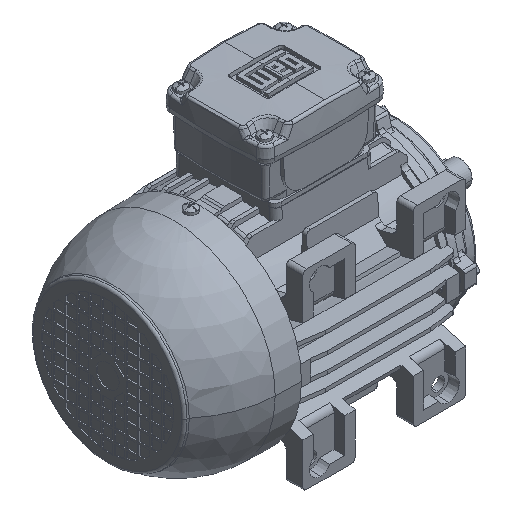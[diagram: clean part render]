
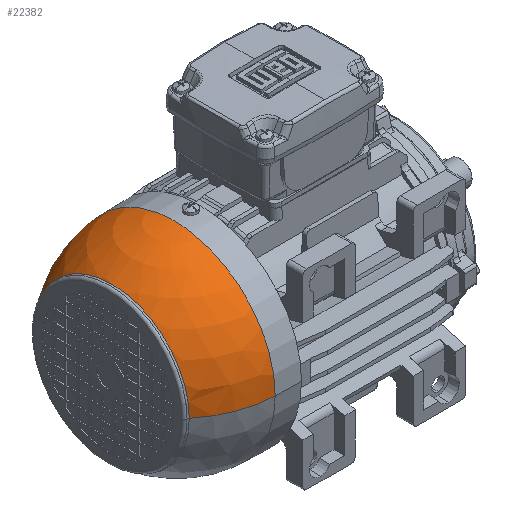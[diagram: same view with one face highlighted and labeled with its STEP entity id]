
A CAD part, isometric view. The second image highlights one B-rep face of the part: STEP entity #22382.
In plain terms, the highlighted spherical face has radius 78.912 mm.
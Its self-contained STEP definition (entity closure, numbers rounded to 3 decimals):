
#22342 = EDGE_CURVE ( 'NONE', #29472, #22385, #46731, .T. ) ;
#22343 = ORIENTED_EDGE ( 'NONE', *, *, #22344, .F. ) ;
#22344 = EDGE_CURVE ( 'NONE', #22345, #22385, #46726, .T. ) ;
#22345 = VERTEX_POINT ( 'NONE', #46721 ) ;
#22346 = ORIENTED_EDGE ( 'NONE', *, *, #22347, .F. ) ;
#22347 = EDGE_CURVE ( 'NONE', #29548, #22345, #46720, .T. ) ;
#22382 = ADVANCED_FACE ( 'NONE', ( #46805 ), #46804, .T. ) ;
#22383 = ORIENTED_EDGE ( 'NONE', *, *, #29463, .T. ) ;
#22384 = ORIENTED_EDGE ( 'NONE', *, *, #22342, .T. ) ;
#22385 = VERTEX_POINT ( 'NONE', #46799 ) ;
#22387 = EDGE_LOOP ( 'NONE', ( #22383, #22384, #22343, #22346 ) ) ;
#29463 = EDGE_CURVE ( 'NONE', #29548, #29472, #48039, .T. ) ;
#29472 = VERTEX_POINT ( 'NONE', #48022 ) ;
#29548 = VERTEX_POINT ( 'NONE', #48133 ) ;
#46716 = DIRECTION ( 'NONE',  ( -1., 0., 0. ) ) ;
#46717 = DIRECTION ( 'NONE',  ( 0., 0., -1. ) ) ;
#46718 = CARTESIAN_POINT ( 'NONE',  ( -82., 0., 0. ) ) ;
#46719 = AXIS2_PLACEMENT_3D ( 'NONE', #46718, #46717, #46716 ) ;
#46720 = CIRCLE ( 'NONE', #46719, 78.912 ) ;
#46721 = CARTESIAN_POINT ( 'NONE',  ( -84.066, 78.885, 0. ) ) ;
#46722 = DIRECTION ( 'NONE',  ( 0., 1., 0. ) ) ;
#46723 = DIRECTION ( 'NONE',  ( 1., 0., 0. ) ) ;
#46724 = CARTESIAN_POINT ( 'NONE',  ( -84.066, 0., 0. ) ) ;
#46725 = AXIS2_PLACEMENT_3D ( 'NONE', #46724, #46723, #46722 ) ;
#46726 = CIRCLE ( 'NONE', #46725, 78.885 ) ;
#46727 = DIRECTION ( 'NONE',  ( 0., -1., 0. ) ) ;
#46728 = DIRECTION ( 'NONE',  ( 0., 0., 1. ) ) ;
#46729 = CARTESIAN_POINT ( 'NONE',  ( -82., 0., 0. ) ) ;
#46730 = AXIS2_PLACEMENT_3D ( 'NONE', #46729, #46728, #46727 ) ;
#46731 = CIRCLE ( 'NONE', #46730, 78.912 ) ;
#46799 = CARTESIAN_POINT ( 'NONE',  ( -84.066, -78.885, 0. ) ) ;
#46800 = DIRECTION ( 'NONE',  ( 0., 1., 0. ) ) ;
#46801 = DIRECTION ( 'NONE',  ( 0., 0., 1. ) ) ;
#46802 = CARTESIAN_POINT ( 'NONE',  ( -82., 0., 0. ) ) ;
#46803 = AXIS2_PLACEMENT_3D ( 'NONE', #46802, #46801, #46800 ) ;
#46804 = SPHERICAL_SURFACE ( 'NONE', #46803, 78.912 ) ;
#46805 = FACE_OUTER_BOUND ( 'NONE', #22387, .T. ) ;
#48022 = CARTESIAN_POINT ( 'NONE',  ( -132.702, -60.467, 0. ) ) ;
#48035 = DIRECTION ( 'NONE',  ( 0., 1., 0. ) ) ;
#48036 = DIRECTION ( 'NONE',  ( 1., 0., 0. ) ) ;
#48037 = CARTESIAN_POINT ( 'NONE',  ( -132.702, 0., 0. ) ) ;
#48038 = AXIS2_PLACEMENT_3D ( 'NONE', #48037, #48036, #48035 ) ;
#48039 = CIRCLE ( 'NONE', #48038, 60.467 ) ;
#48133 = CARTESIAN_POINT ( 'NONE',  ( -132.702, 60.467, 0. ) ) ;
